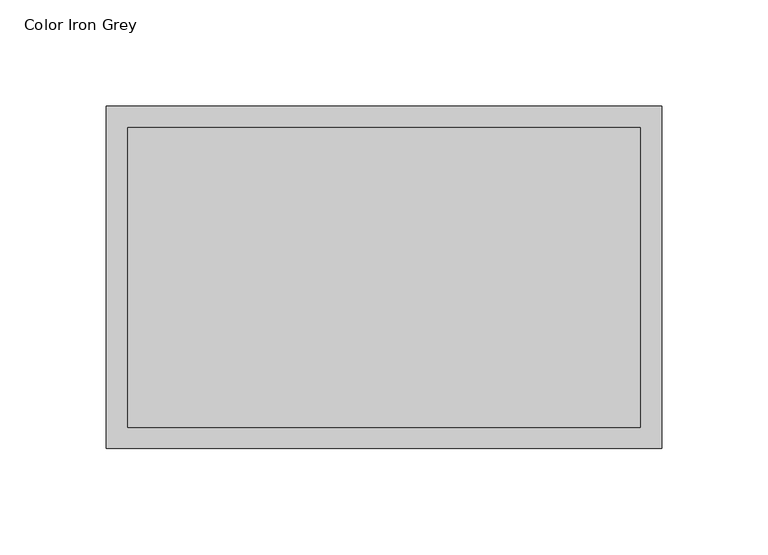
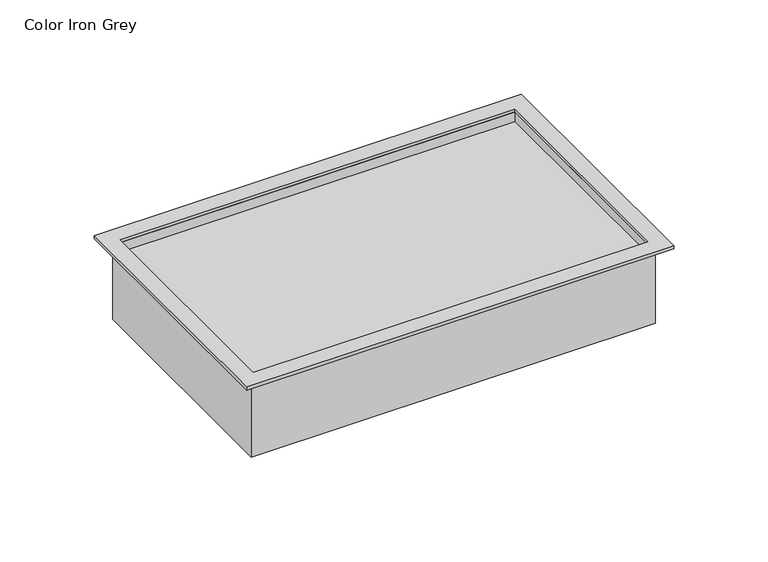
"""IFC4 building model written with IfcOpenShell, lengths in millimetres: proxy geometry, Electrical_Installation_Hager_VE-EE_Cover-BDE04 : Color Iron Grey."""

from ifc_helpers import new_model, si_unit, frame, origin, origin_with_axes, place, context, project, spatial, polyline, outline, extrude, source, transform, mapped, element, save


def color_iron_grey_202d30bf(model_context):
    return source(origin(), model_context, "Body", "SweptSolid", [
        extrude(outline(polyline([(120.5, 70.5), (120.5, -70.5), (-120.5, -70.5), (-120.5, 70.5), (120.5, 70.5)])), frame((0.0, 0.0, -11.0), z_axis=(0.0, 0.0, 1.0), x_axis=(1.0, 0.0, 0.0)), (0.0, 0.0, 1.0), 5.0),
        extrude(outline(polyline([(123.5, -73.5), (-123.5, -73.5), (-123.5, 73.5), (123.5, 73.5), (123.5, -73.5)]), holes=[polyline([(120.5, -70.5), (120.5, 70.5), (-120.5, 70.5), (-120.5, -70.5), (120.5, -70.5)])]), frame((0.0, 0.0, -50.0), z_axis=(0.0, 0.0, 1.0), x_axis=(1.0, 0.0, 0.0)), (0.0, 0.0, 1.0), 50.0),
        extrude(outline(polyline([(130.5, 80.5), (130.5, -80.5), (-130.5, -80.5), (-130.5, 80.5), (130.5, 80.5)]), holes=[polyline([(120.5, 70.5), (-120.5, 70.5), (-120.5, -70.5), (120.5, -70.5), (120.5, 70.5)])]), origin_with_axes(), (0.0, 0.0, 1.0), 2.0),
    ])


if __name__ == "__main__":
    model = new_model("IFC4")
    model_context = context("Model", 3, world=origin())
    ifc_project = project(units=[si_unit("LENGTHUNIT", "METRE", prefix="MILLI")], contexts=[model_context])
    site = spatial("IfcSite", under=ifc_project)
    building = spatial("IfcBuilding", under=site)
    placement = place(None, origin())
    color_iron_grey_shape = color_iron_grey_202d30bf(model_context)
    element("IfcBuildingElementProxy", 1, Name="Electrical_Installation_Hager_VE-EE_Cover-BDE04 : Color Iron Grey", ObjectType="Electrical_Installation_Hager_VE-EE_Cover-BDE04 : Color Iron Grey", at=placement, inside=building, context=model_context, shape_type="MappedRepresentation", body=[
        mapped(color_iron_grey_shape, transform((0.0, 0.0, 0.0), x_axis=(1.0, 0.0, 0.0), y_axis=(0.0, 1.0, 0.0), z_axis=(0.0, 0.0, 1.0))),
    ])
    save(model, "model.ifc")
